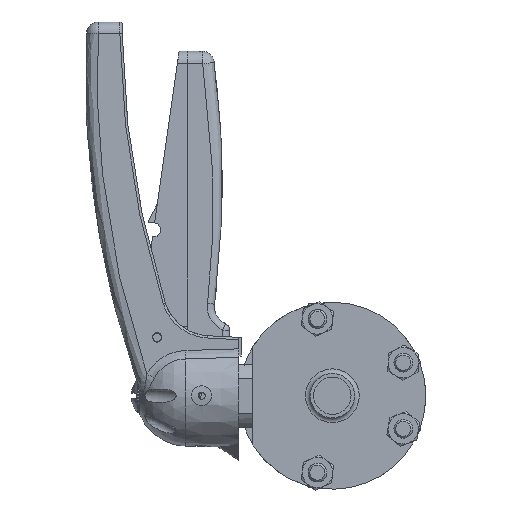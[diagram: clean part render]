
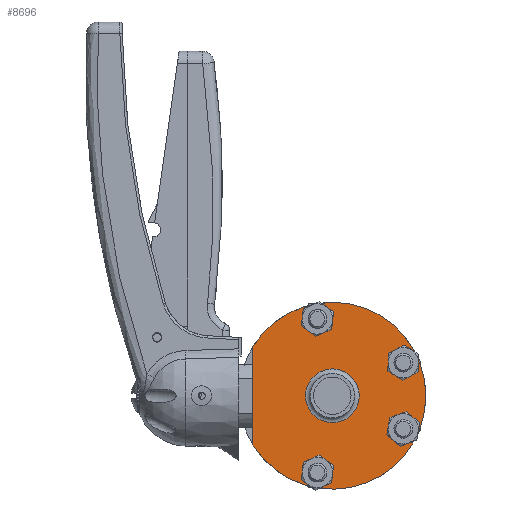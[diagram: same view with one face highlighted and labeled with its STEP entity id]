
A CAD part, left-side view. The second image highlights one B-rep face of the part: STEP entity #8696.
In plain terms, the highlighted planar face has unit normal (-1, 0, 0) as drawn and (1, 0, 0) by its records, which use the part's own axes.
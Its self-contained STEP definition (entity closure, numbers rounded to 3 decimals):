
#901=FACE_BOUND('',#2233,.T.);
#902=FACE_BOUND('',#2234,.T.);
#903=FACE_BOUND('',#2235,.T.);
#904=FACE_BOUND('',#2236,.T.);
#905=FACE_BOUND('',#2237,.T.);
#1118=PLANE('',#9616);
#1701=FACE_OUTER_BOUND('',#2232,.T.);
#2232=EDGE_LOOP('',(#8145,#8146));
#2233=EDGE_LOOP('',(#8147));
#2234=EDGE_LOOP('',(#8148));
#2235=EDGE_LOOP('',(#8149));
#2236=EDGE_LOOP('',(#8150));
#2237=EDGE_LOOP('',(#8151));
#2813=LINE('',#24029,#3393);
#3393=VECTOR('',#11678,10.);
#3706=CIRCLE('',#9601,40.);
#3712=CIRCLE('',#9609,4.1);
#3713=CIRCLE('',#9611,4.1);
#3714=CIRCLE('',#9613,4.1);
#3715=CIRCLE('',#9615,4.1);
#3716=CIRCLE('',#9617,11.5);
#4478=VERTEX_POINT('',#24027);
#4479=VERTEX_POINT('',#24028);
#4487=VERTEX_POINT('',#24050);
#4488=VERTEX_POINT('',#24054);
#4489=VERTEX_POINT('',#24058);
#4490=VERTEX_POINT('',#24062);
#4491=VERTEX_POINT('',#24066);
#5693=EDGE_CURVE('',#4478,#4479,#2813,.T.);
#5698=EDGE_CURVE('',#4479,#4478,#3706,.T.);
#5704=EDGE_CURVE('',#4487,#4487,#3712,.T.);
#5706=EDGE_CURVE('',#4488,#4488,#3713,.T.);
#5708=EDGE_CURVE('',#4489,#4489,#3714,.T.);
#5710=EDGE_CURVE('',#4490,#4490,#3715,.T.);
#5712=EDGE_CURVE('',#4491,#4491,#3716,.T.);
#8145=ORIENTED_EDGE('',*,*,#5693,.T.);
#8146=ORIENTED_EDGE('',*,*,#5698,.T.);
#8147=ORIENTED_EDGE('',*,*,#5704,.T.);
#8148=ORIENTED_EDGE('',*,*,#5706,.T.);
#8149=ORIENTED_EDGE('',*,*,#5708,.T.);
#8150=ORIENTED_EDGE('',*,*,#5710,.T.);
#8151=ORIENTED_EDGE('',*,*,#5712,.F.);
#8696=ADVANCED_FACE('',(#1701,#901,#902,#903,#904,#905),#1118,.T.);
#9601=AXIS2_PLACEMENT_3D('',#24037,#11686,#11687);
#9609=AXIS2_PLACEMENT_3D('',#24051,#11702,#11703);
#9611=AXIS2_PLACEMENT_3D('',#24055,#11707,#11708);
#9613=AXIS2_PLACEMENT_3D('',#24059,#11712,#11713);
#9615=AXIS2_PLACEMENT_3D('',#24063,#11717,#11718);
#9616=AXIS2_PLACEMENT_3D('',#24065,#11720,#11721);
#9617=AXIS2_PLACEMENT_3D('',#24067,#11722,#11723);
#11678=DIRECTION('',(0.,0.,1.));
#11686=DIRECTION('center_axis',(1.,0.,0.));
#11687=DIRECTION('ref_axis',(0.,0.,-1.));
#11702=DIRECTION('center_axis',(-1.,0.,0.));
#11703=DIRECTION('ref_axis',(0.,0.,1.));
#11707=DIRECTION('center_axis',(-1.,0.,0.));
#11708=DIRECTION('ref_axis',(0.,0.,1.));
#11712=DIRECTION('center_axis',(-1.,0.,0.));
#11713=DIRECTION('ref_axis',(0.,0.,-1.));
#11717=DIRECTION('center_axis',(-1.,0.,0.));
#11718=DIRECTION('ref_axis',(0.,0.,-1.));
#11720=DIRECTION('center_axis',(1.,0.,0.));
#11721=DIRECTION('ref_axis',(0.,0.,-1.));
#11722=DIRECTION('center_axis',(1.,0.,0.));
#11723=DIRECTION('ref_axis',(0.,0.,-1.));
#24027=CARTESIAN_POINT('',(10.,34.,-21.071));
#24028=CARTESIAN_POINT('',(10.,34.,21.071));
#24029=CARTESIAN_POINT('',(10.,34.,-10.536));
#24037=CARTESIAN_POINT('Origin',(10.,0.,0.));
#24050=CARTESIAN_POINT('',(10.,6.392,28.785));
#24051=CARTESIAN_POINT('Origin',(10.,6.392,32.885));
#24054=CARTESIAN_POINT('',(10.,-30.361,10.058));
#24055=CARTESIAN_POINT('Origin',(10.,-30.361,14.158));
#24058=CARTESIAN_POINT('',(10.,6.392,-28.785));
#24059=CARTESIAN_POINT('Origin',(10.,6.392,-32.885));
#24062=CARTESIAN_POINT('',(10.,-30.361,-10.058));
#24063=CARTESIAN_POINT('Origin',(10.,-30.361,-14.158));
#24065=CARTESIAN_POINT('Origin',(10.,11.5,0.));
#24066=CARTESIAN_POINT('',(10.,0.,11.5));
#24067=CARTESIAN_POINT('Origin',(10.,0.,0.));
